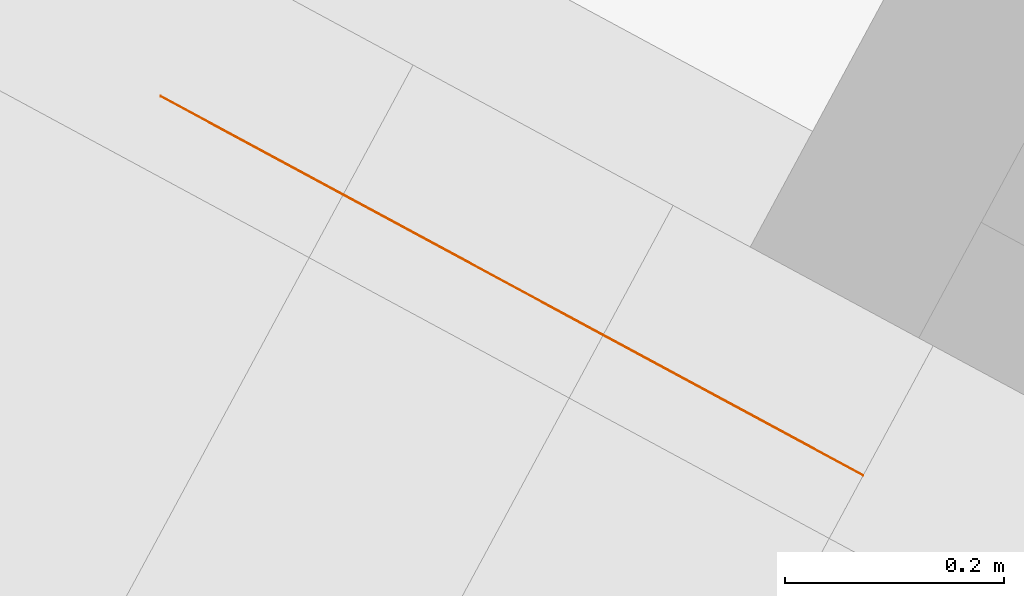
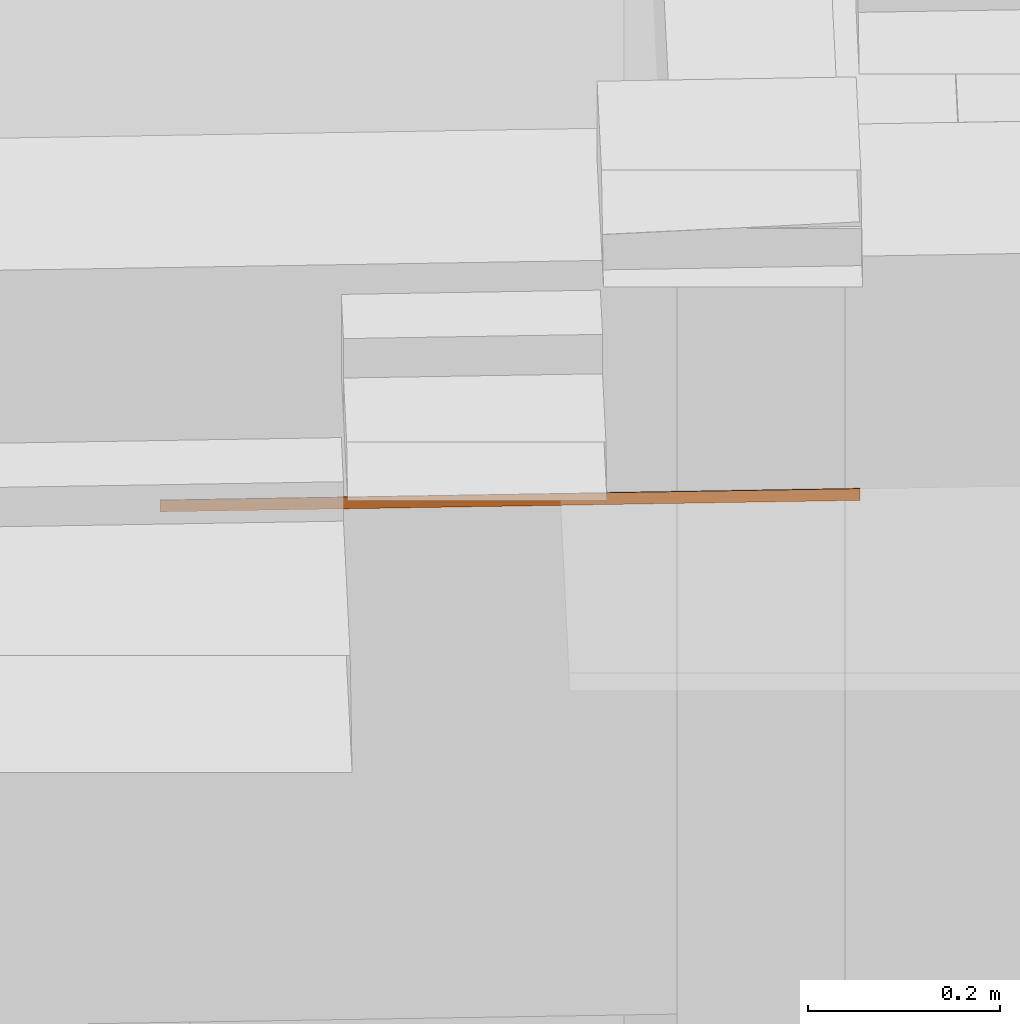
# One storey, part 36 of 36: 1 proxy.
"""IFC2X3 building model written with IfcOpenShell, lengths in metres."""

from ifc_helpers import new_model, entity, si_unit, converted_unit, derived_unit, money_unit, direction, frame, origin_with_axes, place, context, subcontext, project, spatial, polyline, outline, extrude, material, type_object, element, save


model = new_model("IFC2X3")

# Units and contexts
model_context = context("Model", 3, precision=1e-05, world=origin_with_axes(), true_north=direction((0.0, 1.0)))
body_context = subcontext(model_context, "Body", "Model", "MODEL_VIEW")
ifc_project = project(units=[si_unit("LENGTHUNIT", "METRE"), si_unit("AREAUNIT", "SQUARE_METRE"), si_unit("VOLUMEUNIT", "CUBIC_METRE"), converted_unit("PLANEANGLEUNIT", "DEGREE", entity("IfcPlaneAngleMeasure", 0.0174532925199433), si_unit("PLANEANGLEUNIT", "RADIAN"), dimensions=[0, 0, 0, 0, 0, 0, 0]), money_unit("EUR"), converted_unit("TIMEUNIT", "Year", entity("IfcTimeMeasure", 31556926.0), si_unit("TIMEUNIT", "SECOND"), dimensions=[0, 0, 1, 0, 0, 0, 0]), si_unit("MASSUNIT", "GRAM", prefix="KILO"), si_unit("THERMODYNAMICTEMPERATUREUNIT", "DEGREE_CELSIUS"), si_unit("LUMINOUSINTENSITYUNIT", "LUMEN"), si_unit("ENERGYUNIT", "JOULE", prefix="MEGA"), derived_unit("THERMALCONDUCTANCEUNIT", [(si_unit("POWERUNIT", "WATT"), 1), (si_unit("LENGTHUNIT", "METRE"), -1), (si_unit("THERMODYNAMICTEMPERATUREUNIT", "KELVIN"), -1)]), derived_unit("SPECIFICHEATCAPACITYUNIT", [(si_unit("ENERGYUNIT", "JOULE"), 1), (si_unit("MASSUNIT", "GRAM", prefix="KILO"), -1), (si_unit("THERMODYNAMICTEMPERATUREUNIT", "KELVIN"), -1)]), derived_unit("MASSDENSITYUNIT", [(si_unit("MASSUNIT", "GRAM", prefix="KILO"), 1), (si_unit("VOLUMEUNIT", "CUBIC_METRE"), -1)])], contexts=[model_context])

# Site, building, storey
site_placement = place(None, frame((-3.949935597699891, 1.740105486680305, 0.0), z_axis=(0.0, 0.0, 1.0), x_axis=(0.8799804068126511, -0.475009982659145, 0.0)))
site = spatial("IfcSite", under=ifc_project, at=site_placement, Name="Gelände", CompositionType="ELEMENT")
building_placement = place(site_placement, origin_with_axes())
building = spatial("IfcBuilding", under=site, at=building_placement, Name="Gebäude", CompositionType="ELEMENT")
storey_placement = place(building_placement, origin_with_axes())
storey = spatial("IfcBuildingStorey", under=building, at=storey_placement, Name="Erdgeschoss", CompositionType="ELEMENT", Elevation=0.0)

# Proxy
ifc_material = material(Name="Gipskarton")
building_element_proxy_type = type_object("IfcBuildingElementProxyType", Name="Gipskarton 15", PredefinedType="NOTDEFINED")
proxy_placement = place(storey_placement, frame((12.87815167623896, 10.64349702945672, 3.600000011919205), z_axis=(0.0, 0.0, 1.0), x_axis=(1.0, 0.0, 0.0)))
element("IfcBuildingElementProxy", 1, at=proxy_placement, inside=storey, type_object=building_element_proxy_type, material=ifc_material, Name="Decke001", context=body_context, shape_type="SweptSolid", body=[
    extrude(outline(polyline([(0.0, 0.0), (7.513243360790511e-09, -0.00073269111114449), (0.7293357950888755, -0.0007252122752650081), (0.729335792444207, 6.997123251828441e-05), (0.0, 0.0)])), origin_with_axes(), (0.0, 0.0, 1.0), 0.015),
])

save(model, "model.ifc")
